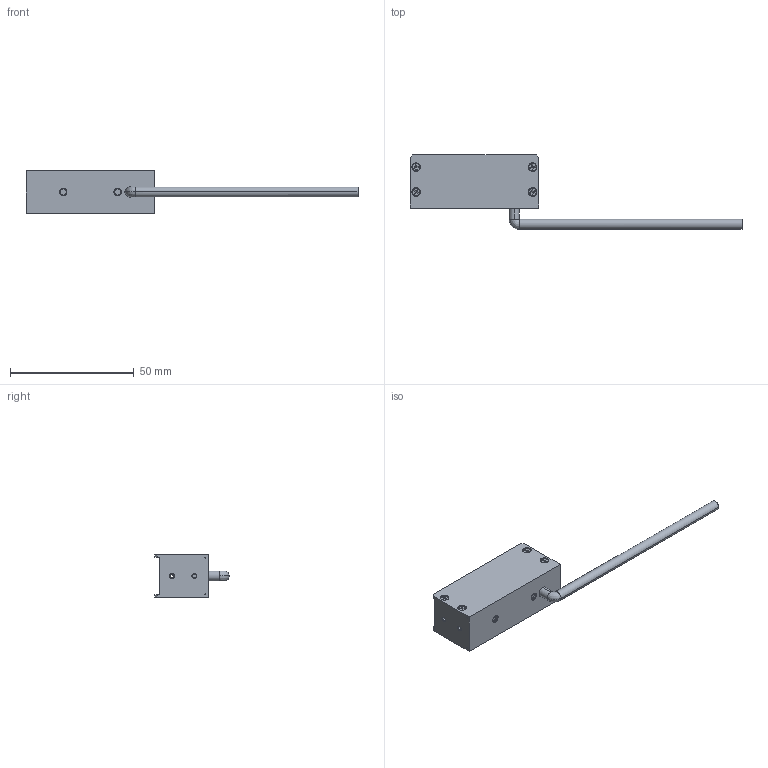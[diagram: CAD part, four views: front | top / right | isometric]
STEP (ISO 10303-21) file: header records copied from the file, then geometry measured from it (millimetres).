
FILE_DESCRIPTION (( 'STEP AP214' ), '1' );
FILE_NAME ('CV-BA-42X15#_20140528.STEP', '2014-05-28T11:52:51', ( '' ), ( '' ), 'SwSTEP 2.0', 'SolidWorks 2011', '' );
FILE_SCHEMA (( 'AUTOMOTIVE_DESIGN' ));
Length unit declared in the file: millimetre
Products named in the file (1): CV-BA-42X15#_20140528
Bounding box: 134 x 30.02 x 17 mm (x, y, z)
Volume: 13046.4 mm3; surface area: 8950 mm2
Topology: 1 solids, 1 shells, 444 faces, 1007 edges, 587 vertices
Faces by surface type: plane 204, cylinder 142, bspline 62, cone 36
Entity records: 15227 total; most frequent: CARTESIAN_POINT 5537, DIRECTION 2086, ORIENTED_EDGE 1882, EDGE_CURVE 941, AXIS2_PLACEMENT_3D 771, VERTEX_POINT 587, VECTOR 544, LINE 544
